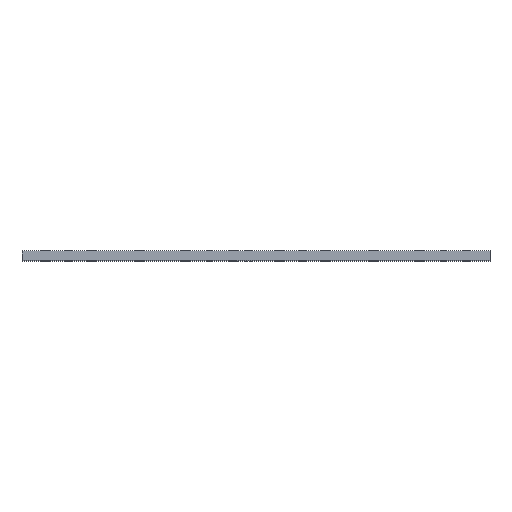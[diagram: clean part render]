
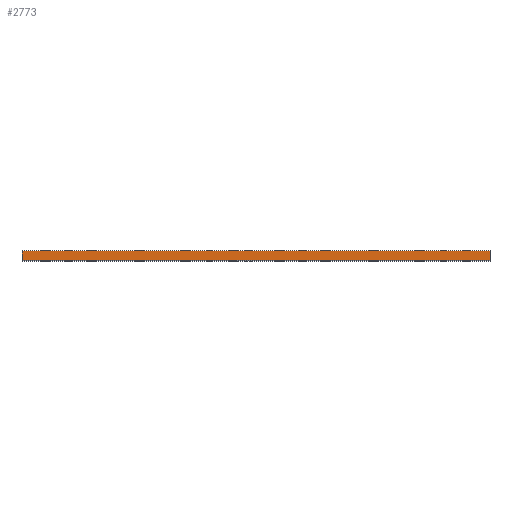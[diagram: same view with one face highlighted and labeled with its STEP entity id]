
A CAD part, top view. The second image highlights one B-rep face of the part: STEP entity #2773.
In plain terms, the highlighted planar face has unit normal (0, 0, 1).
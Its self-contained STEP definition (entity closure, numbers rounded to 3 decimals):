
#251=PLANE('',#3150);
#373=FACE_OUTER_BOUND('',#495,.T.);
#495=EDGE_LOOP('',(#2288,#2289,#2290,#2291));
#851=LINE('',#4698,#979);
#852=LINE('',#4701,#980);
#853=LINE('',#4703,#981);
#854=LINE('',#4704,#982);
#979=VECTOR('',#3974,10.);
#980=VECTOR('',#3977,10.);
#981=VECTOR('',#3978,10.);
#982=VECTOR('',#3979,10.);
#1452=VERTEX_POINT('',#4691);
#1455=VERTEX_POINT('',#4696);
#1456=VERTEX_POINT('',#4700);
#1457=VERTEX_POINT('',#4702);
#1811=EDGE_CURVE('',#1452,#1455,#851,.T.);
#1812=EDGE_CURVE('',#1456,#1452,#852,.T.);
#1813=EDGE_CURVE('',#1457,#1455,#853,.T.);
#1814=EDGE_CURVE('',#1456,#1457,#854,.T.);
#2288=ORIENTED_EDGE('',*,*,#1812,.T.);
#2289=ORIENTED_EDGE('',*,*,#1811,.T.);
#2290=ORIENTED_EDGE('',*,*,#1813,.F.);
#2291=ORIENTED_EDGE('',*,*,#1814,.F.);
#2773=ADVANCED_FACE('',(#373),#251,.T.);
#3150=AXIS2_PLACEMENT_3D('',#4699,#3975,#3976);
#3974=DIRECTION('',(0.,1.,0.));
#3975=DIRECTION('center_axis',(0.,0.,1.));
#3976=DIRECTION('ref_axis',(1.,0.,0.));
#3977=DIRECTION('',(1.,0.,0.));
#3978=DIRECTION('',(1.,0.,0.));
#3979=DIRECTION('',(0.,1.,0.));
#4691=CARTESIAN_POINT('',(0.,0.,0.));
#4696=CARTESIAN_POINT('',(0.,5.,0.));
#4698=CARTESIAN_POINT('',(0.,0.,0.));
#4699=CARTESIAN_POINT('Origin',(-250.,0.,0.));
#4700=CARTESIAN_POINT('',(-250.,0.,0.));
#4701=CARTESIAN_POINT('',(-250.,0.,0.));
#4702=CARTESIAN_POINT('',(-250.,5.,0.));
#4703=CARTESIAN_POINT('',(-250.,5.,0.));
#4704=CARTESIAN_POINT('',(-250.,0.,0.));
